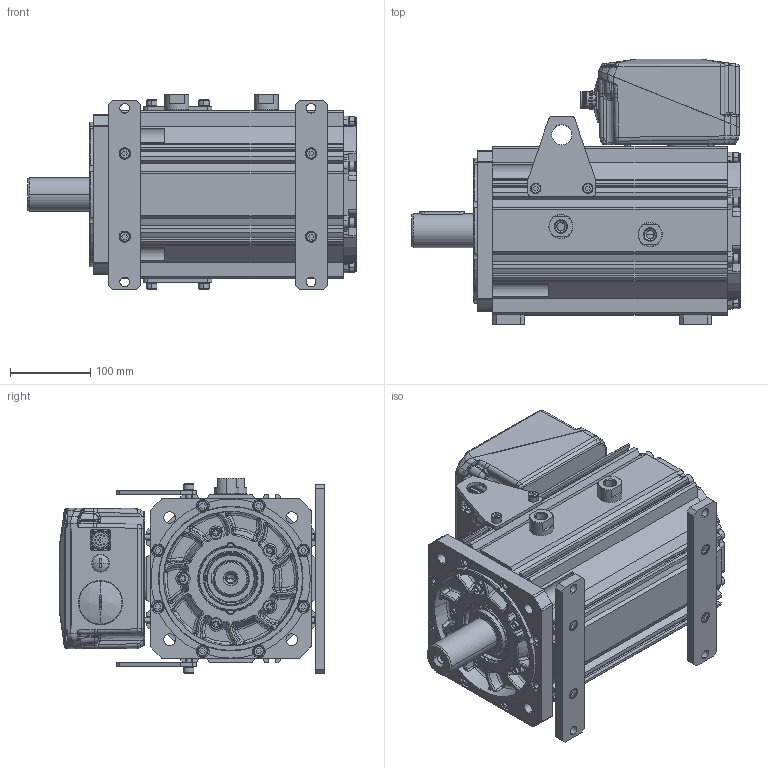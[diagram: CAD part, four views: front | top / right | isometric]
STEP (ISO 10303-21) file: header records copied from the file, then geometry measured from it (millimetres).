
FILE_DESCRIPTION((''),'2;1');
FILE_NAME('67979N-0_SW0002','2016-07-04T',('yanyerong'),(''),'PRO/ENGINEER BY PARAMETRIC TECHNOLOGY CORPORATION, 2010430','PRO/ENGINEER BY PARAMETRIC TECHNOLOGY CORPORATION, 2010430','');
FILE_SCHEMA(('CONFIG_CONTROL_DESIGN'));
Products named in the file (1): 67979N-0_SW0002
Bounding box: 409.5 x 330.5 x 243.64 mm (x, y, z)
Surface area: 1158058.9 mm2 (no closed solid volume)
Topology: 0 solids, 126 shells, 2690 faces, 7386 edges, 4808 vertices
Faces by surface type: plane 899, cylinder 652, bspline 532, torus 271, cone 262, sphere 74
Entity records: 127984 total; most frequent: CARTESIAN_POINT 63451, ORIENTED_EDGE 13311, DIRECTION 12792, EDGE_CURVE 7380, AXIS2_PLACEMENT_3D 4900, VERTEX_POINT 4808, VECTOR 2992, LINE 2992
